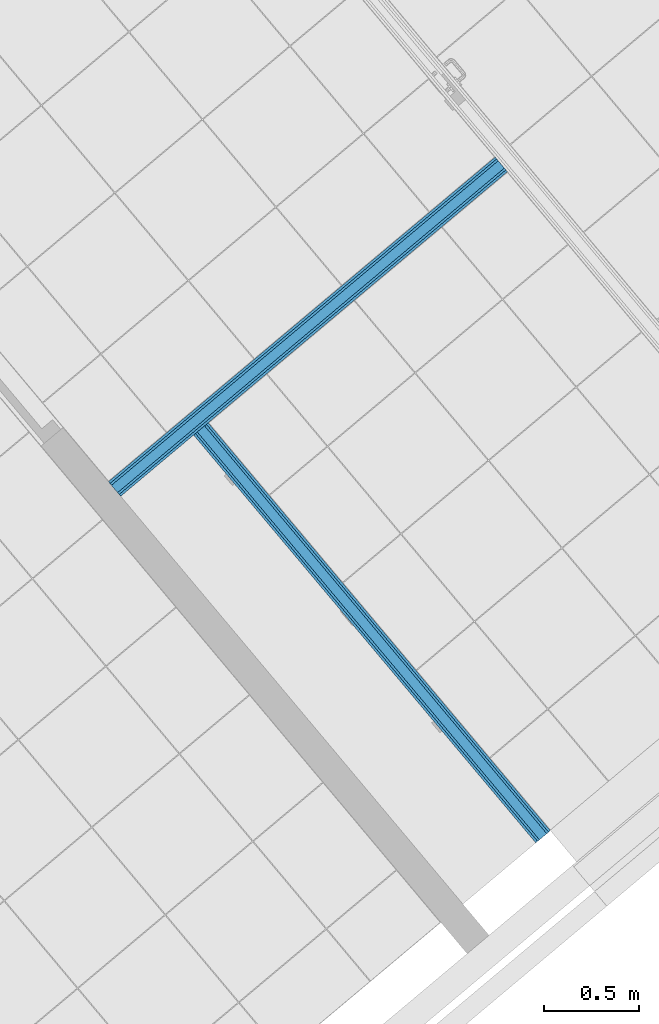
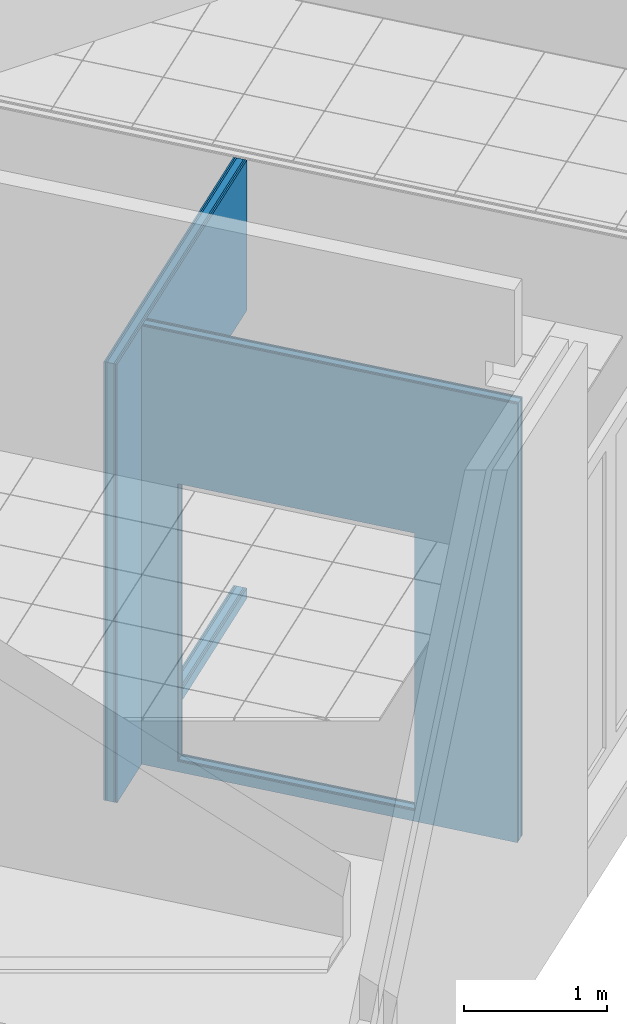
# One storey, part 67 of 338: 10 building element parts, 2 openings, 2 elements without a shape of their own.
"""IFC2X3 building model written with IfcOpenShell, lengths in millimetres."""

import ifcopenshell
import ifcopenshell.guid

model = None  # the IFC model being written
_history = None  # IfcOwnerHistory: only IFC2X3 demands one
_inside = {}  # id of a spatial element -> (the spatial element, [elements in it])
_under = {}  # id of a project, library or spatial element -> (it, [spatial elements below it])
_declared = {}  # id of a project -> (the project, [libraries it declares])
_typed = {}  # id of a type object -> (the type object, [elements of that type])
_made_of = {}  # id of a material, layer set ... -> (it, [elements and type objects made of it])


def new_model(schema):
    """Start an empty IFC model of exactly this schema.

    Asked for "IFC4X3", IfcOpenShell would pick the latest addendum, in which some entities
    have other attributes; the version numbers below select the first issue.
    IFC2X3 requires an IfcOwnerHistory on every rooted entity: one is made here for all.
    """
    global model, _history
    if schema == "IFC4X3":
        model = ifcopenshell.file(schema_version=(4, 3, 0, 0))
    else:
        model = ifcopenshell.file(schema=schema)
    _inside.clear()
    _under.clear()
    _declared.clear()
    _typed.clear()
    _made_of.clear()
    _history = None
    if model.schema == "IFC2X3":
        org = make("IfcOrganization", Name="unknown")
        user = make(
            "IfcPersonAndOrganization",
            ThePerson=make("IfcPerson", FamilyName="unknown"),
            TheOrganization=org,
        )
        app = make(
            "IfcApplication",
            ApplicationDeveloper=org,
            Version="unknown",
            ApplicationFullName="unknown",
            ApplicationIdentifier="unknown",
        )
        _history = make(
            "IfcOwnerHistory",
            OwningUser=user,
            OwningApplication=app,
            ChangeAction="ADDED",
            CreationDate=0,
        )
    return model


def make(cls, **values):
    """One entity of the class cls with the attributes given. An attribute that is None is left unset."""
    return model.create_entity(
        cls, **{name: value for name, value in values.items() if value is not None}
    )


def entity(cls, *values):
    """Any entity or typed value of the class cls, its attributes in the order of the schema. None: left unset."""
    e = model.create_entity(cls)
    for i, value in enumerate(values):
        if value is not None:
            e[i] = value
    return e


def rooted(cls, **values):
    """An entity with a GlobalId (a new one), such as an element, a storey or a relation."""
    return make(cls, GlobalId=ifcopenshell.guid.new(), OwnerHistory=_history, **values)


def si_unit(unit_type, name, prefix=None):
    """IfcSIUnit, for example si_unit("LENGTHUNIT", "METRE", prefix="MILLI")."""
    return make("IfcSIUnit", UnitType=unit_type, Prefix=prefix, Name=name)


def converted_unit(unit_type, name, factor, base, dimensions=None, offset=None):
    """IfcConversionBasedUnit, such as the inch: factor (a typed value) times the base unit."""
    return make(
        "IfcConversionBasedUnit"
        if offset is None
        else "IfcConversionBasedUnitWithOffset",
        ConversionOffset=offset,
        Dimensions=None
        if dimensions is None
        else entity("IfcDimensionalExponents", *dimensions),
        UnitType=unit_type,
        Name=name,
        ConversionFactor=make(
            "IfcMeasureWithUnit", ValueComponent=factor, UnitComponent=base
        ),
    )


def derived_unit(unit_type, elements):
    """IfcDerivedUnit: a product of units, each with its exponent."""
    return make(
        "IfcDerivedUnit",
        Elements=[
            make("IfcDerivedUnitElement", Unit=unit, Exponent=power)
            for unit, power in elements
        ],
        UnitType=unit_type,
    )


def money_unit(currency):
    """IfcMonetaryUnit."""
    return make("IfcMonetaryUnit", Currency=currency)


def assignment(units):
    """IfcUnitAssignment: the units of a project."""
    return None if units is None else make("IfcUnitAssignment", Units=units)


def point(xyz):
    """IfcCartesianPoint."""
    return None if xyz is None else make("IfcCartesianPoint", Coordinates=xyz)


def direction(xyz):
    """IfcDirection."""
    return None if xyz is None else make("IfcDirection", DirectionRatios=xyz)


def frame(location, z_axis=None, x_axis=None):
    """IfcAxis2Placement3D, a coordinate frame: its origin and axes. An axis left out is left unset."""
    return make(
        "IfcAxis2Placement3D",
        Location=point(location),
        Axis=direction(z_axis),
        RefDirection=direction(x_axis),
    )


def origin_with_axes():
    """The frame at (0, 0, 0) with the z axis (0, 0, 1) and the x axis (1, 0, 0) written out."""
    return frame((0.0, 0.0, 0.0), z_axis=(0.0, 0.0, 1.0), x_axis=(1.0, 0.0, 0.0))


def place(relative_to, where):
    """IfcLocalPlacement: puts the frame where relative to a parent placement (None: the world)."""
    return make(
        "IfcLocalPlacement", PlacementRelTo=relative_to, RelativePlacement=where
    )


def context(
    kind, dimensions, precision=None, world=None, true_north=None, identifier=None
):
    """IfcGeometricRepresentationContext, for example the 3D "Model" context."""
    return make(
        "IfcGeometricRepresentationContext",
        ContextIdentifier=identifier,
        ContextType=kind,
        CoordinateSpaceDimension=dimensions,
        Precision=precision,
        WorldCoordinateSystem=world,
        TrueNorth=true_north,
    )


def subcontext(parent, identifier, kind, view, scale=None):
    """IfcGeometricRepresentationSubContext, for example "Body" below "Model"."""
    return make(
        "IfcGeometricRepresentationSubContext",
        ContextIdentifier=identifier,
        ContextType=kind,
        ParentContext=parent,
        TargetScale=scale,
        TargetView=view,
    )


def project(units=None, contexts=None):
    """IfcProject with its units and contexts."""
    return rooted(
        "IfcProject",
        Name="project",
        RepresentationContexts=contexts,
        UnitsInContext=assignment(units),
    )


def spatial(cls, under=None, at=None, **own):
    """A site, building, storey or space (cls), placed at a placement, below another one or the project."""
    s = rooted(cls, ObjectPlacement=at, **own)
    if under is not None:
        _under.setdefault(under.id(), (under, []))[1].append(s)
    return s


def faces_of(points, faces, orient=None, outer=None):
    """IfcFace entities. A face is a list of loops; a loop is a list of indices into points, from 0.

    orient and outer hold one flag for each loop. By default every Orientation is true, the
    first loop of a face is its IfcFaceOuterBound and the others are IfcFaceBound.
    """
    made = []
    for i, loops in enumerate(faces):
        bounds = []
        for j, loop in enumerate(loops):
            is_outer = j == 0 if outer is None else outer[i][j]
            bounds.append(
                make(
                    "IfcFaceOuterBound" if is_outer else "IfcFaceBound",
                    Bound=make("IfcPolyLoop", Polygon=[points[k] for k in loop]),
                    Orientation=True if orient is None else orient[i][j],
                )
            )
        made.append(make("IfcFace", Bounds=bounds))
    return made


def faceted_brep(points, faces, orient=None, outer=None, voids=None):
    """IfcFacetedBrep: a solid bounded by flat faces; with voids (closed shells), ...WithVoids."""
    shared = [point(p) for p in points]
    hull = make("IfcClosedShell", CfsFaces=faces_of(shared, faces, orient, outer))
    if voids is None:
        return make("IfcFacetedBrep", Outer=hull)
    return make(
        "IfcFacetedBrepWithVoids",
        Outer=hull,
        Voids=[
            make(cls, CfsFaces=faces_of(shared, fs, o, b)) for cls, fs, o, b in voids
        ],
    )


def shape(context_of_items, identifier, shape_type, items):
    """IfcShapeRepresentation: the items that make up one representation, for example the "Body"."""
    return make(
        "IfcShapeRepresentation",
        ContextOfItems=context_of_items,
        RepresentationIdentifier=identifier,
        RepresentationType=shape_type,
        Items=items,
    )


def material(Name=None, Category=None):
    """IfcMaterial."""
    return make("IfcMaterial", Name=Name, Category=Category)


def made_of(thing, what):
    """Note that an element or type object is made of a material, layer set ...; save() writes the relation."""
    if what is not None:
        _made_of.setdefault(what.id(), (what, []))[1].append(thing)
    return thing


def type_object(cls, material=None, **own):
    """A type object (cls), such as IfcWallType, which elements share."""
    return made_of(rooted(cls, **own), material)


def element(
    cls,
    number,
    at=None,
    inside=None,
    cuts=None,
    type_object=None,
    material=None,
    context=None,
    identifier="Body",
    shape_type=None,
    held_by="IfcProductDefinitionShape",
    body=None,
    shapes=None,
    **own,
):
    """One element of the class cls, such as IfcWall. Its Tag is "e" and its number.

    at: its placement. inside: the storey or other place that contains it. cuts: it is an
    opening in that element (IfcRelVoidsElement). A single representation is given by context,
    identifier, shape_type and body (its items); several are given by shapes. held_by: the class
    of the entity that holds the representations. save() writes the other relations.
    """
    e = rooted(cls, Tag="e%d" % number, ObjectPlacement=at, **own)
    if body is not None:
        shapes = [shape(context, identifier, shape_type, body)]
    if shapes is not None:
        e.Representation = make(held_by, Representations=shapes)
    if inside is not None:
        _inside.setdefault(inside.id(), (inside, []))[1].append(e)
    if cuts is not None:
        rooted(
            "IfcRelVoidsElement", RelatingBuildingElement=cuts, RelatedOpeningElement=e
        )
    if type_object is not None:
        _typed.setdefault(type_object.id(), (type_object, []))[1].append(e)
    return made_of(e, material)


def aggregate(whole, parts):
    """IfcRelAggregates: a whole, such as a stair, and the parts it consists of."""
    return rooted("IfcRelAggregates", RelatingObject=whole, RelatedObjects=parts)


def save(model, path):
    """Write the relations noted so far, then the file.

    IfcRelAggregates (storeys below a building ...), IfcRelContainedInSpatialStructure (elements
    in a storey), IfcRelDefinesByType, IfcRelAssociatesMaterial and IfcRelDeclares: one each for
    every whole, place, type object, material and project.
    """
    for whole, parts in _under.values():
        aggregate(whole, parts)
    for where, things in _inside.values():
        rooted(
            "IfcRelContainedInSpatialStructure",
            RelatedElements=things,
            RelatingStructure=where,
        )
    for kind, things in _typed.values():
        rooted("IfcRelDefinesByType", RelatedObjects=things, RelatingType=kind)
    for what, things in _made_of.values():
        rooted("IfcRelAssociatesMaterial", RelatedObjects=things, RelatingMaterial=what)
    for by, libraries in _declared.values():
        rooted("IfcRelDeclares", RelatingContext=by, RelatedDefinitions=libraries)
    model.write(path)


model = new_model("IFC2X3")

# Units and contexts
model_context = context("Model", 3, precision=0.01, world=origin_with_axes(), true_north=direction((0.0, 1.0)))
plan_context = context("Plan", 3, precision=0.01, world=origin_with_axes(), true_north=direction((0.0, 1.0)))
body_context = subcontext(model_context, "Body", "Model", "MODEL_VIEW")
ifc_project = project(units=[si_unit("LENGTHUNIT", "METRE", prefix="MILLI"), si_unit("AREAUNIT", "SQUARE_METRE"), si_unit("VOLUMEUNIT", "CUBIC_METRE"), converted_unit("PLANEANGLEUNIT", "DEGREE", entity("IfcPlaneAngleMeasure", 0.0174532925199), si_unit("PLANEANGLEUNIT", "RADIAN"), dimensions=[0, 0, 0, 0, 0, 0, 0]), money_unit("EUR"), converted_unit("TIMEUNIT", "Year", entity("IfcTimeMeasure", 31556926.0), si_unit("TIMEUNIT", "SECOND"), dimensions=[0, 0, 1, 0, 0, 0, 0]), si_unit("MASSUNIT", "GRAM", prefix="KILO"), si_unit("THERMODYNAMICTEMPERATUREUNIT", "DEGREE_CELSIUS"), si_unit("LUMINOUSINTENSITYUNIT", "LUMEN"), si_unit("ENERGYUNIT", "JOULE", prefix="MEGA"), derived_unit("THERMALCONDUCTANCEUNIT", [(si_unit("POWERUNIT", "WATT"), 1), (si_unit("LENGTHUNIT", "METRE"), -1), (si_unit("THERMODYNAMICTEMPERATUREUNIT", "KELVIN"), -1)]), derived_unit("SPECIFICHEATCAPACITYUNIT", [(si_unit("ENERGYUNIT", "JOULE"), 1), (si_unit("MASSUNIT", "GRAM", prefix="KILO"), -1), (si_unit("THERMODYNAMICTEMPERATUREUNIT", "KELVIN"), -1)]), derived_unit("MASSDENSITYUNIT", [(si_unit("MASSUNIT", "GRAM", prefix="KILO"), 1), (si_unit("VOLUMEUNIT", "CUBIC_METRE"), -1)])], contexts=[model_context, plan_context])

# Site, building, storey
site_placement = place(None, origin_with_axes())
site = spatial("IfcSite", under=ifc_project, at=site_placement, Name="Fortuinstraat Woensdrecht", CompositionType="ELEMENT")
building_placement = place(site_placement, origin_with_axes())
building = spatial("IfcBuilding", under=site, at=building_placement, Name="IKC Fortuna", CompositionType="ELEMENT")
storey_placement = place(building_placement, origin_with_axes())
storey = spatial("IfcBuildingStorey", under=building, at=storey_placement, Name="00 begane grond", CompositionType="ELEMENT", Elevation=0.0)

# Wall, opening, building element parts
wall_type = type_object("IfcWallType", Name="MS100 2.50.2A 100", PredefinedType="NOTDEFINED")
wall_1_placement = place(storey_placement, frame((26046.1010172, -2843.02846582, -90.0), z_axis=(0.0, 0.0, 1.0), x_axis=(0.766044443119, 0.642787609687, 0.0)))
wall_1 = element("IfcWall", 1, at=wall_1_placement, inside=storey, type_object=wall_type, Name="22_Wand_Binnenwand")
opening_1_placement = place(wall_1_placement, frame((1661.45610699, 0.0, 90.0), z_axis=(0.0, 0.0, 1.0), x_axis=(1.0, 0.0, 0.0)))
element("IfcOpeningElement", 2, at=opening_1_placement, cuts=wall_1, Name="32_Deur_h.08", context=body_context, shape_type="Brep", body=[
    faceted_brep([(-988.5, 100.0, 2367.0), (-988.5, 100.0, 0.0), (-988.5, -200.0, 0.0), (-988.5, -200.0, 2367.0), (988.5, 100.0, 2367.0), (988.5, 100.0, 0.0), (988.5, -200.0, 0.0), (988.5, -200.0, 2367.0)], [[[0, 1, 2, 3]], [[0, 4, 5, 1]], [[1, 5, 6, 2]], [[3, 2, 6, 7]], [[4, 0, 3, 7]], [[5, 4, 7, 6]]]),
])
ifc_material_1 = material(Name="Gipsplaat")
building_element_part_1_placement = place(wall_1_placement, origin_with_axes())
building_element_part_1 = element("IfcBuildingElementPart", 3, at=building_element_part_1_placement, material=ifc_material_1, Name="Gipsplaat", context=body_context, shape_type="Brep", body=[
    faceted_brep([(672.956106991, 87.5, 90.0), (672.956106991, 87.5, 2457.0), (2649.95610699, 87.5, 2457.0), (2649.95610699, 87.5, 3740.0), (0.0, 87.5, 3740.0), (0.0, 87.5, 0.0), (2649.95610699, 87.5, 0.0), (2649.95610699, 87.5, 90.0), (672.956106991, 100.0, 90.0), (672.956106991, 100.0, 2457.0), (2649.95610699, 100.0, 2457.0), (2649.95610699, 100.0, 3740.0), (0.0, 100.0, 3740.0), (0.0, 100.0, 0.0), (2649.95610699, 100.0, 0.0), (2649.95610699, 100.0, 90.0)], [[[0, 1, 2, 3, 4, 5, 6, 7]], [[1, 0, 8, 9]], [[10, 2, 1, 9]], [[2, 10, 11, 3]], [[12, 4, 3, 11]], [[12, 13, 5, 4]], [[5, 13, 14, 6]], [[15, 7, 6, 14]], [[0, 7, 15, 8]], [[8, 15, 14, 13, 12, 11, 10, 9]]]),
])
building_element_part_2_placement = place(wall_1_placement, origin_with_axes())
building_element_part_2 = element("IfcBuildingElementPart", 4, at=building_element_part_2_placement, material=ifc_material_1, Name="Gipsplaat", context=body_context, shape_type="Brep", body=[
    faceted_brep([(672.956106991, 75.0, 90.0), (672.956106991, 75.0, 2457.0), (2649.95610699, 75.0, 2457.0), (2649.95610699, 75.0, 3740.0), (0.0, 75.0, 3740.0), (0.0, 75.0, 0.0), (2649.95610699, 75.0, 0.0), (2649.95610699, 75.0, 90.0), (672.956106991, 87.5, 90.0), (672.956106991, 87.5, 2457.0), (2649.95610699, 87.5, 2457.0), (2649.95610699, 87.5, 3740.0), (0.0, 87.5, 3740.0), (0.0, 87.5, 0.0), (2649.95610699, 87.5, 0.0), (2649.95610699, 87.5, 90.0)], [[[0, 1, 2, 3, 4, 5, 6, 7]], [[1, 0, 8, 9]], [[10, 2, 1, 9]], [[2, 10, 11, 3]], [[12, 4, 3, 11]], [[12, 13, 5, 4]], [[5, 13, 14, 6]], [[15, 7, 6, 14]], [[0, 7, 15, 8]], [[8, 15, 14, 13, 12, 11, 10, 9]]]),
])
ifc_material_2 = material(Name="Isolatie - Steenwol LSW")
building_element_part_3_placement = place(wall_1_placement, origin_with_axes())
building_element_part_3 = element("IfcBuildingElementPart", 5, at=building_element_part_3_placement, material=ifc_material_2, Name="Isolatie - Steenwol LSW", context=body_context, shape_type="Brep", body=[
    faceted_brep([(672.956106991, 25.0, 90.0), (672.956106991, 25.0, 2457.0), (2649.95610699, 25.0, 2457.0), (2649.95610699, 25.0, 3740.0), (0.0, 25.0, 3740.0), (0.0, 25.0, 0.0), (2649.95610699, 25.0, 0.0), (2649.95610699, 25.0, 90.0), (672.956106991, 75.0, 90.0), (672.956106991, 75.0, 2457.0), (2649.95610699, 75.0, 2457.0), (2649.95610699, 75.0, 3740.0), (0.0, 75.0, 3740.0), (0.0, 75.0, 0.0), (2649.95610699, 75.0, 0.0), (2649.95610699, 75.0, 90.0)], [[[0, 1, 2, 3, 4, 5, 6, 7]], [[1, 0, 8, 9]], [[10, 2, 1, 9]], [[2, 10, 11, 3]], [[12, 4, 3, 11]], [[12, 13, 5, 4]], [[5, 13, 14, 6]], [[15, 7, 6, 14]], [[0, 7, 15, 8]], [[8, 15, 14, 13, 12, 11, 10, 9]]]),
])
building_element_part_4_placement = place(wall_1_placement, origin_with_axes())
building_element_part_4 = element("IfcBuildingElementPart", 6, at=building_element_part_4_placement, material=ifc_material_1, Name="Gipsplaat", context=body_context, shape_type="Brep", body=[
    faceted_brep([(672.956106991, 12.5, 90.0), (672.956106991, 12.5, 2457.0), (2649.95610699, 12.5, 2457.0), (2649.95610699, 12.5, 3740.0), (0.0, 12.5, 3740.0), (0.0, 12.5, 0.0), (2649.95610699, 12.5, 0.0), (2649.95610699, 12.5, 90.0), (672.956106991, 25.0, 90.0), (672.956106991, 25.0, 2457.0), (2649.95610699, 25.0, 2457.0), (2649.95610699, 25.0, 3740.0), (0.0, 25.0, 3740.0), (0.0, 25.0, 0.0), (2649.95610699, 25.0, 0.0), (2649.95610699, 25.0, 90.0)], [[[0, 1, 2, 3, 4, 5, 6, 7]], [[1, 0, 8, 9]], [[10, 2, 1, 9]], [[2, 10, 11, 3]], [[12, 4, 3, 11]], [[12, 13, 5, 4]], [[5, 13, 14, 6]], [[15, 7, 6, 14]], [[0, 7, 15, 8]], [[8, 15, 14, 13, 12, 11, 10, 9]]]),
])
building_element_part_5_placement = place(wall_1_placement, origin_with_axes())
building_element_part_5 = element("IfcBuildingElementPart", 7, at=building_element_part_5_placement, material=ifc_material_1, Name="Gipsplaat", context=body_context, shape_type="Brep", body=[
    faceted_brep([(672.956106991, 0.0, 90.0), (672.956106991, 0.0, 2457.0), (2649.95610699, 0.0, 2457.0), (2649.95610699, 0.0, 3740.0), (0.0, 0.0, 3740.0), (0.0, 0.0, 0.0), (2649.95610699, 0.0, 0.0), (2649.95610699, 0.0, 90.0), (672.956106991, 12.5, 90.0), (672.956106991, 12.5, 2457.0), (2649.95610699, 12.5, 2457.0), (2649.95610699, 12.5, 3740.0), (0.0, 12.5, 3740.0), (0.0, 12.5, 0.0), (2649.95610699, 12.5, 0.0), (2649.95610699, 12.5, 90.0)], [[[0, 1, 2, 3, 4, 5, 6, 7]], [[1, 0, 8, 9]], [[10, 2, 1, 9]], [[2, 10, 11, 3]], [[12, 4, 3, 11]], [[12, 13, 5, 4]], [[5, 13, 14, 6]], [[15, 7, 6, 14]], [[0, 7, 15, 8]], [[8, 15, 14, 13, 12, 11, 10, 9]]]),
])
aggregate(wall_1, [building_element_part_1, building_element_part_2, building_element_part_3, building_element_part_4, building_element_part_5])

wall_2_placement = place(storey_placement, frame((28301.6446617, -4597.71428318, -90.0), z_axis=(0.0, 0.0, 1.0), x_axis=(-0.642787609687, 0.766044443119, 0.0)))
wall_2 = element("IfcWall", 8, at=wall_2_placement, inside=storey, type_object=wall_type, Name="22_Wand_Binnenwand")
opening_2_placement = place(wall_2_placement, frame((1647.00309878, 0.0, 90.0), z_axis=(0.0, 0.0, 1.0), x_axis=(1.0, 0.0, 0.0)))
element("IfcOpeningElement", 9, at=opening_2_placement, cuts=wall_2, Name="32_Deur_h.10", context=body_context, shape_type="Brep", body=[
    faceted_brep([(-880.0, 100.0, 2367.0), (-880.0, 100.0, 0.0), (-880.0, -200.0, 0.0), (-880.0, -200.0, 2367.0), (880.0, 100.0, 2367.0), (880.0, 100.0, 0.0), (880.0, -200.0, 0.0), (880.0, -200.0, 2367.0)], [[[0, 1, 2, 3]], [[0, 4, 5, 1]], [[1, 5, 6, 2]], [[3, 2, 6, 7]], [[4, 0, 3, 7]], [[5, 4, 7, 6]]]),
])
building_element_part_6_placement = place(wall_2_placement, origin_with_axes())
building_element_part_6 = element("IfcBuildingElementPart", 10, at=building_element_part_6_placement, material=ifc_material_1, Name="Gipsplaat", context=body_context, shape_type="Brep", body=[
    faceted_brep([(0.0, 100.0, 0.0), (0.0, 100.0, 3740.0), (2794.00282759, 100.0, 3740.0), (2794.00282759, 100.0, 0.0), (2527.00309878, 100.0, 90.0), (2527.00309878, 100.0, 2457.0), (767.003098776, 100.0, 2457.0), (767.003098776, 100.0, 90.0), (0.0, 87.5, 0.0), (0.0, 87.5, 3740.0), (2794.00282759, 87.5, 3740.0), (2794.00282759, 87.5, 0.0), (2527.00309878, 87.5, 90.0), (2527.00309878, 87.5, 2457.0), (767.003098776, 87.5, 2457.0), (767.003098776, 87.5, 90.0)], [[[0, 1, 2, 3], [4, 5, 6, 7]], [[1, 0, 8, 9]], [[1, 9, 10, 2]], [[11, 3, 2, 10]], [[8, 0, 3, 11]], [[12, 13, 5, 4]], [[13, 14, 6, 5]], [[14, 15, 7, 6]], [[15, 12, 4, 7]], [[9, 8, 11, 10], [12, 15, 14, 13]]]),
])
building_element_part_7_placement = place(wall_2_placement, origin_with_axes())
building_element_part_7 = element("IfcBuildingElementPart", 11, at=building_element_part_7_placement, material=ifc_material_1, Name="Gipsplaat", context=body_context, shape_type="Brep", body=[
    faceted_brep([(0.0, 87.5, 0.0), (0.0, 87.5, 3740.0), (2794.00282759, 87.5, 3740.0), (2794.00282759, 87.5, 0.0), (2527.00309878, 87.5, 90.0), (2527.00309878, 87.5, 2457.0), (767.003098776, 87.5, 2457.0), (767.003098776, 87.5, 90.0), (0.0, 75.0, 0.0), (0.0, 75.0, 3740.0), (2794.00282759, 75.0, 3740.0), (2794.00282759, 75.0, 0.0), (2527.00309878, 75.0, 90.0), (2527.00309878, 75.0, 2457.0), (767.003098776, 75.0, 2457.0), (767.003098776, 75.0, 90.0)], [[[0, 1, 2, 3], [4, 5, 6, 7]], [[1, 0, 8, 9]], [[1, 9, 10, 2]], [[11, 3, 2, 10]], [[8, 0, 3, 11]], [[12, 13, 5, 4]], [[13, 14, 6, 5]], [[14, 15, 7, 6]], [[15, 12, 4, 7]], [[9, 8, 11, 10], [12, 15, 14, 13]]]),
])
building_element_part_8_placement = place(wall_2_placement, origin_with_axes())
building_element_part_8 = element("IfcBuildingElementPart", 12, at=building_element_part_8_placement, material=ifc_material_2, Name="Isolatie - Steenwol LSW", context=body_context, shape_type="Brep", body=[
    faceted_brep([(0.0, 75.0, 0.0), (0.0, 75.0, 3740.0), (2794.00282759, 75.0, 3740.0), (2794.00282759, 75.0, 0.0), (2527.00309878, 75.0, 90.0), (2527.00309878, 75.0, 2457.0), (767.003098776, 75.0, 2457.0), (767.003098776, 75.0, 90.0), (0.0, 25.0, 0.0), (0.0, 25.0, 3740.0), (2794.00282759, 25.0, 3740.0), (2794.00282759, 25.0, 0.0), (2527.00309878, 25.0, 90.0), (2527.00309878, 25.0, 2457.0), (767.003098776, 25.0, 2457.0), (767.003098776, 25.0, 90.0)], [[[0, 1, 2, 3], [4, 5, 6, 7]], [[1, 0, 8, 9]], [[1, 9, 10, 2]], [[11, 3, 2, 10]], [[8, 0, 3, 11]], [[12, 13, 5, 4]], [[13, 14, 6, 5]], [[14, 15, 7, 6]], [[15, 12, 4, 7]], [[9, 8, 11, 10], [12, 15, 14, 13]]]),
])
building_element_part_9_placement = place(wall_2_placement, origin_with_axes())
building_element_part_9 = element("IfcBuildingElementPart", 13, at=building_element_part_9_placement, material=ifc_material_1, Name="Gipsplaat", context=body_context, shape_type="Brep", body=[
    faceted_brep([(0.0, 25.0, 0.0), (0.0, 25.0, 3740.0), (2794.00282759, 25.0, 3740.0), (2794.00282759, 25.0, 0.0), (2527.00309878, 25.0, 90.0), (2527.00309878, 25.0, 2457.0), (767.003098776, 25.0, 2457.0), (767.003098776, 25.0, 90.0), (0.0, 12.5, 0.0), (0.0, 12.5, 3740.0), (2794.00282759, 12.5, 3740.0), (2794.00282759, 12.5, 0.0), (2527.00309878, 12.5, 90.0), (2527.00309878, 12.5, 2457.0), (767.003098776, 12.5, 2457.0), (767.003098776, 12.5, 90.0)], [[[0, 1, 2, 3], [4, 5, 6, 7]], [[1, 0, 8, 9]], [[1, 9, 10, 2]], [[11, 3, 2, 10]], [[8, 0, 3, 11]], [[12, 13, 5, 4]], [[13, 14, 6, 5]], [[14, 15, 7, 6]], [[15, 12, 4, 7]], [[9, 8, 11, 10], [12, 15, 14, 13]]]),
])
building_element_part_10_placement = place(wall_2_placement, origin_with_axes())
building_element_part_10 = element("IfcBuildingElementPart", 14, at=building_element_part_10_placement, material=ifc_material_1, Name="Gipsplaat", context=body_context, shape_type="Brep", body=[
    faceted_brep([(0.0, 12.5, 0.0), (0.0, 12.5, 3740.0), (2794.00282759, 12.5, 3740.0), (2794.00282759, 12.5, 0.0), (2527.00309878, 12.5, 90.0), (2527.00309878, 12.5, 2457.0), (767.003098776, 12.5, 2457.0), (767.003098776, 12.5, 90.0), (0.0, 0.0, 0.0), (0.0, 0.0, 3740.0), (2794.00282759, 0.0, 3740.0), (2794.00282759, 0.0, 0.0), (2527.00309878, 0.0, 90.0), (2527.00309878, 0.0, 2457.0), (767.003098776, 0.0, 2457.0), (767.003098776, 0.0, 90.0)], [[[0, 1, 2, 3], [4, 5, 6, 7]], [[1, 0, 8, 9]], [[1, 9, 10, 2]], [[11, 3, 2, 10]], [[8, 0, 3, 11]], [[12, 13, 5, 4]], [[13, 14, 6, 5]], [[14, 15, 7, 6]], [[15, 12, 4, 7]], [[9, 8, 11, 10], [12, 15, 14, 13]]]),
])
aggregate(wall_2, [building_element_part_6, building_element_part_7, building_element_part_8, building_element_part_9, building_element_part_10])

save(model, "model.ifc")
